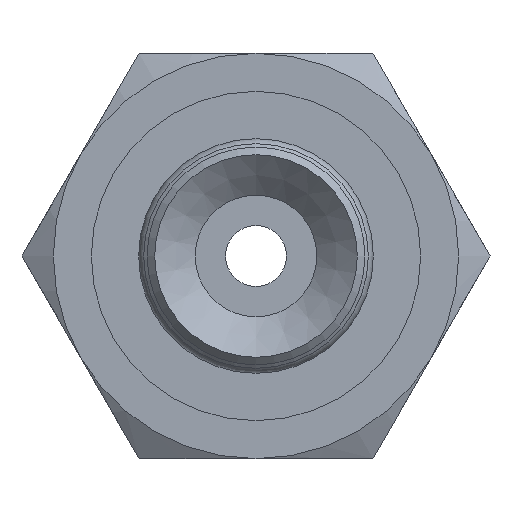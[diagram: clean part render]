
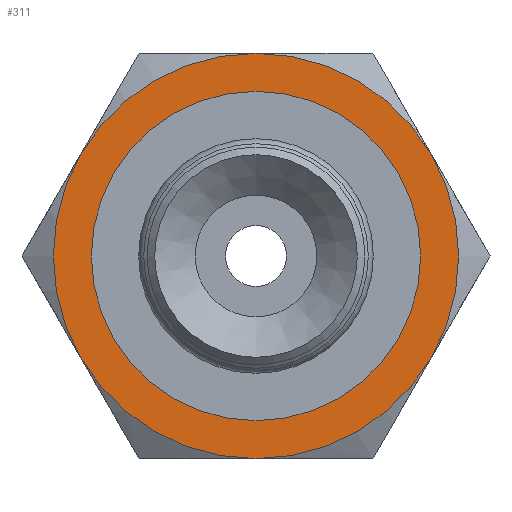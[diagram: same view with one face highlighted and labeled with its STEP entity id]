
A CAD part, front view. The second image highlights one B-rep face of the part: STEP entity #311.
In plain terms, the highlighted planar face has unit normal (0, -1, 0).
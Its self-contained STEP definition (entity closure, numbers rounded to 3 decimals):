
#311=ADVANCED_FACE('',(#445,#446),#447,.T.);
#445=FACE_BOUND('',#623,.T.);
#446=FACE_OUTER_BOUND('',#624,.T.);
#447=PLANE('',#625);
#623=EDGE_LOOP('',(#941));
#624=EDGE_LOOP('',(#942,#943,#944,#945,#946,#947));
#625=AXIS2_PLACEMENT_3D('',#948,#949,#950);
#941=ORIENTED_EDGE('',*,*,#1117,.F.);
#942=ORIENTED_EDGE('',*,*,#1128,.T.);
#943=ORIENTED_EDGE('',*,*,#1098,.T.);
#944=ORIENTED_EDGE('',*,*,#1100,.T.);
#945=ORIENTED_EDGE('',*,*,#1090,.T.);
#946=ORIENTED_EDGE('',*,*,#1084,.T.);
#947=ORIENTED_EDGE('',*,*,#1126,.T.);
#948=CARTESIAN_POINT('',(3.25,0.,0.0));
#949=DIRECTION('',(0.0,-1.0,0.0));
#950=DIRECTION('',(0.0,0.0,-1.0));
#1084=EDGE_CURVE('',#1181,#1192,#1194,.T.);
#1090=EDGE_CURVE('',#1195,#1181,#1204,.T.);
#1098=EDGE_CURVE('',#1206,#1217,#1219,.T.);
#1100=EDGE_CURVE('',#1217,#1195,#1221,.T.);
#1117=EDGE_CURVE('',#1250,#1250,#1251,.T.);
#1126=EDGE_CURVE('',#1192,#1242,#1262,.T.);
#1128=EDGE_CURVE('',#1242,#1206,#1265,.T.);
#1181=VERTEX_POINT('',#1339);
#1192=VERTEX_POINT('',#1358);
#1194=CIRCLE('',#1362,4.0);
#1195=VERTEX_POINT('',#1363);
#1204=CIRCLE('',#1379,4.0);
#1206=VERTEX_POINT('',#1381);
#1217=VERTEX_POINT('',#1400);
#1219=CIRCLE('',#1404,4.0);
#1221=CIRCLE('',#1408,4.0);
#1242=VERTEX_POINT('',#1436);
#1250=VERTEX_POINT('',#1450);
#1251=CIRCLE('',#1451,3.25);
#1262=CIRCLE('',#1462,4.0);
#1265=CIRCLE('',#1465,4.0);
#1339=CARTESIAN_POINT('',(-3.464,0.,2.0));
#1358=CARTESIAN_POINT('',(-3.464,0.,-2.0));
#1362=AXIS2_PLACEMENT_3D('',#1557,#1558,#1559);
#1363=CARTESIAN_POINT('',(0.0,0.,4.0));
#1379=AXIS2_PLACEMENT_3D('',#1563,#1564,#1565);
#1381=CARTESIAN_POINT('',(3.464,0.,-2.0));
#1400=CARTESIAN_POINT('',(3.464,0.,2.0));
#1404=AXIS2_PLACEMENT_3D('',#1570,#1571,#1572);
#1408=AXIS2_PLACEMENT_3D('',#1573,#1574,#1575);
#1436=CARTESIAN_POINT('',(0.0,0.,-4.0));
#1450=CARTESIAN_POINT('',(0.0,0.,-3.25));
#1451=AXIS2_PLACEMENT_3D('',#1601,#1602,#1603);
#1462=AXIS2_PLACEMENT_3D('',#1628,#1629,#1630);
#1465=AXIS2_PLACEMENT_3D('',#1634,#1635,#1636);
#1557=CARTESIAN_POINT('',(0.0,0.,0.0));
#1558=DIRECTION('',(0.0,-1.0,0.0));
#1559=DIRECTION('',(0.0,0.0,-1.0));
#1563=CARTESIAN_POINT('',(0.0,0.,0.0));
#1564=DIRECTION('',(0.0,-1.0,0.0));
#1565=DIRECTION('',(0.0,0.0,-1.0));
#1570=CARTESIAN_POINT('',(0.0,0.,0.0));
#1571=DIRECTION('',(0.0,-1.0,0.0));
#1572=DIRECTION('',(0.0,0.0,-1.0));
#1573=CARTESIAN_POINT('',(0.0,0.,0.0));
#1574=DIRECTION('',(0.0,-1.0,0.0));
#1575=DIRECTION('',(0.0,0.0,-1.0));
#1601=CARTESIAN_POINT('',(0.0,0.,0.0));
#1602=DIRECTION('',(0.0,-1.0,0.0));
#1603=DIRECTION('',(0.0,0.0,-1.0));
#1628=CARTESIAN_POINT('',(0.0,0.,0.0));
#1629=DIRECTION('',(0.0,-1.0,0.0));
#1630=DIRECTION('',(0.0,0.0,-1.0));
#1634=CARTESIAN_POINT('',(0.0,0.,0.0));
#1635=DIRECTION('',(0.0,-1.0,0.0));
#1636=DIRECTION('',(0.0,0.0,-1.0));
